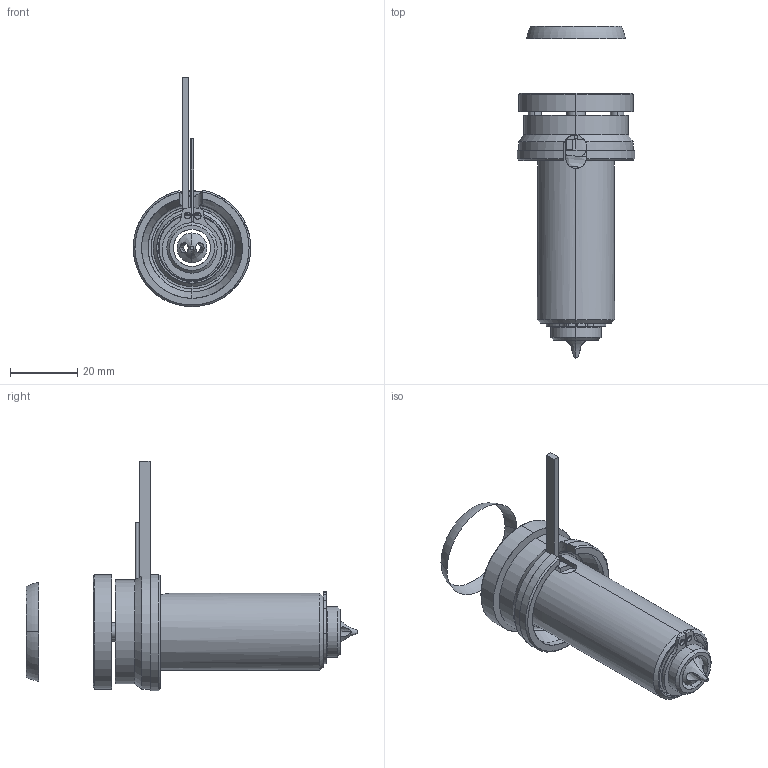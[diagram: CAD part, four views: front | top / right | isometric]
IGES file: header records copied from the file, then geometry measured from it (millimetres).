
Start section: SolidWorks IGES file using analytic representation for surfaces
Global section: file name: C:\Users\luca.EMPAD\Desktop\TEM\UGDL2601-M-A [Øf=1.0 ØC=5.5].IGS; native system: SolidWorks 2012; preprocessor: SolidWorks 2012; author: luca; date: 120330.144934; units: millimetre
Bounding box: 35 x 98.84 x 68.3 mm (x, y, z)
Surface area: 20932.7 mm2 (no closed solid volume)
Topology: 0 solids, 0 shells, 140 faces, 2230 edges, 2226 vertices
Faces by surface type: revolution 80, bspline 60
